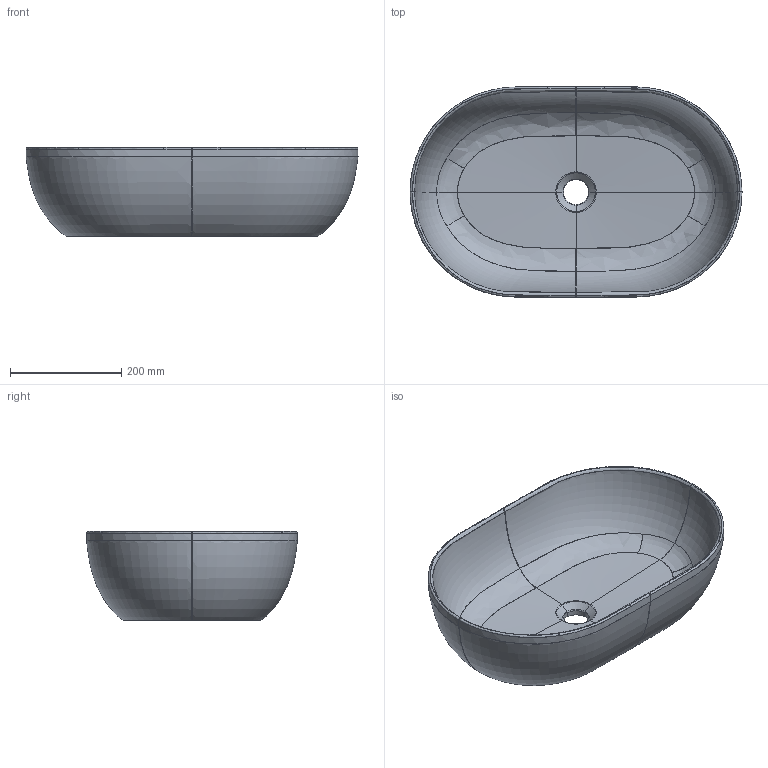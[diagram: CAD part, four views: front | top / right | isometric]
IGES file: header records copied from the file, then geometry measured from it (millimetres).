
Start section: START RECORD GO HERE.
Global section: file name: 7308_3D_IGS.igs; native system: DASSAULT SYSTEMES CATIA V5 R19 - www.3ds.com; preprocessor: CATIA Version 5 Release 19 SP 5 ; author: Luca; organization: DESKTOP-V7SON24; date: 20220503.085436; units: millimetre
Bounding box: 596.45 x 378.38 x 159.98 mm (x, y, z)
Surface area: 693749.9 mm2 (no closed solid volume)
Topology: 0 solids, 0 shells, 161 faces, 704 edges, 704 vertices
Faces by surface type: bspline 129, revolution 28, plane 4
